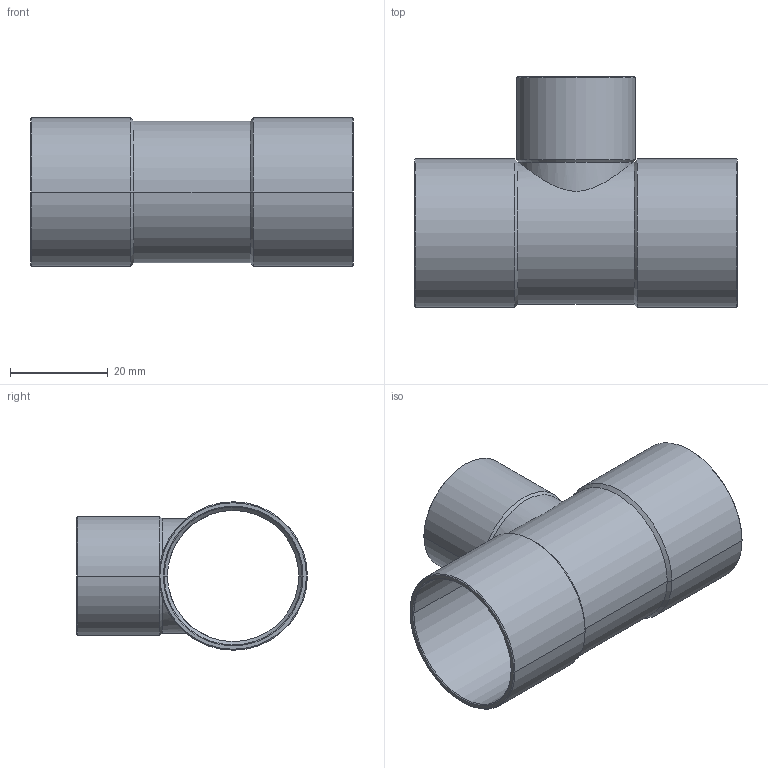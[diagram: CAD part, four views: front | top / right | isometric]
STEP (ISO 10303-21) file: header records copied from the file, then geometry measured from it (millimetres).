
FILE_DESCRIPTION((''),'2;1');
FILE_NAME('G:\Technics\CAD\Bauteile\15130\15130282228.stp','2005-11-02T10:19:46',('boden'),(''),'Autodesk Inventor 8','Autodesk Inventor 8','');
FILE_SCHEMA(('AUTOMOTIVE_DESIGN { 1 0 10303 214 1 1 1 1 }'));
Length unit declared in the file: millimetre
Products named in the file (1): 15130282228
Bounding box: 66 x 47.17 x 30.35 mm (x, y, z)
Volume: 7787.2 mm3; surface area: 14353 mm2
Topology: 1 solids, 1 shells, 48 faces, 105 edges, 58 vertices
Faces by surface type: cone 24, cylinder 20, plane 3, bspline 1
Entity records: 1649 total; most frequent: CARTESIAN_POINT 571, DIRECTION 234, ORIENTED_EDGE 210, EDGE_CURVE 105, AXIS2_PLACEMENT_3D 97, VERTEX_POINT 58, EDGE_LOOP 51, CIRCLE 49
